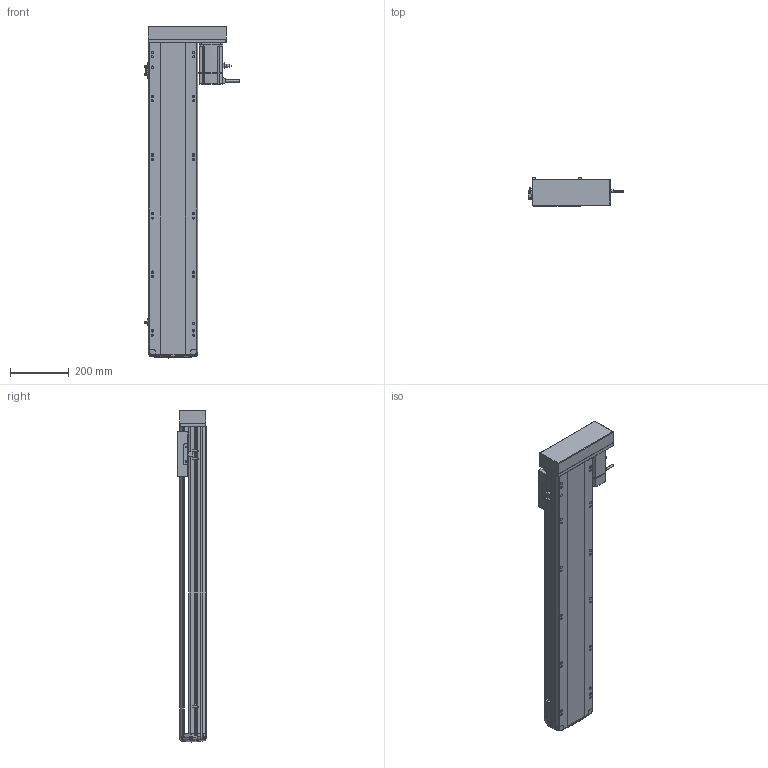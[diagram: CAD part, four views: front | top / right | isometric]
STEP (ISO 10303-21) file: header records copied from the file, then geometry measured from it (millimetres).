
FILE_DESCRIPTION (( 'STEP AP214' ), '1' );
FILE_NAME ('RTH17-XX-850-L-M75-C4.STEP', '2025-10-24T10:34:36', ( '' ), ( '' ), 'SwSTEP 2.0', 'SolidWorks 2018', '' );
FILE_SCHEMA (( 'AUTOMOTIVE_DESIGN' ));
Length unit declared in the file: millimetre
Products named in the file (10): N_OMRON EE-SX672 換覜ん^RTH17-XX-XX-L-M75-C4ㄗ源最宒ㄘ; N_RTH17-M-007上盖^RTH17-XX-XX-L-M75-C4（方程式）; N_RTH17-L-008-P75电机安装板左转折^RTH17-XX-XX-L-M75-C4（方程式）; N_RTH-L-012 感应片(外置)^RTH17-XX-XX-L-M75-C4（方程式）; N_RTH17-L-018盖子^RTH17-XX-XX-L-M75-C4（方程式）; N_RTH17-E-004丝杆螺母连接座^RTH17-XX-XX-L-M75-C4（方程式）; N_M75^RTH17-XX-XX-L-M75-C4（方程式）; RTH17-XX-850-L-M75-C4; N_RTH17-M-011底座^RTH17-XX-XX-L-M75-C4（方程式）; N_RTH17-GY-001P^RTH17-XX-XX-L-M75-C4（方程式）
Assembly tree (11 placements, depth 2):
  RTH17-XX-850-L-M75-C4
    N_RTH17-M-011底座^RTH17-XX-XX-L-M75-C4（方程式）
    N_RTH17-M-007上盖^RTH17-XX-XX-L-M75-C4（方程式）
    N_M75^RTH17-XX-XX-L-M75-C4（方程式）
    N_OMRON EE-SX672 換覜ん^RTH17-XX-XX-L-M75-C4ㄗ源最宒ㄘ  x3
    N_RTH-L-012 感应片(外置)^RTH17-XX-XX-L-M75-C4（方程式）
    N_RTH17-L-008-P75电机安装板左转折^RTH17-XX-XX-L-M75-C4（方程式）
    N_RTH17-L-018盖子^RTH17-XX-XX-L-M75-C4（方程式）
    N_RTH17-E-004丝杆螺母连接座^RTH17-XX-XX-L-M75-C4（方程式）
    N_RTH17-GY-001P^RTH17-XX-XX-L-M75-C4（方程式）
Bounding box: 326.7 x 97 x 1132.99 mm (x, y, z)
Volume: 10222432.1 mm3; surface area: 1279624.2 mm2
Topology: 13 solids, 15 shells, 1757 faces, 4835 edges, 3130 vertices
Faces by surface type: plane 833, cylinder 510, bspline 377, cone 28, torus 9
Entity records: 51269 total; most frequent: CARTESIAN_POINT 20495, ORIENTED_EDGE 6694, DIRECTION 5563, EDGE_CURVE 3351, VERTEX_POINT 2166, AXIS2_PLACEMENT_3D 1873, VECTOR 1817, LINE 1817
